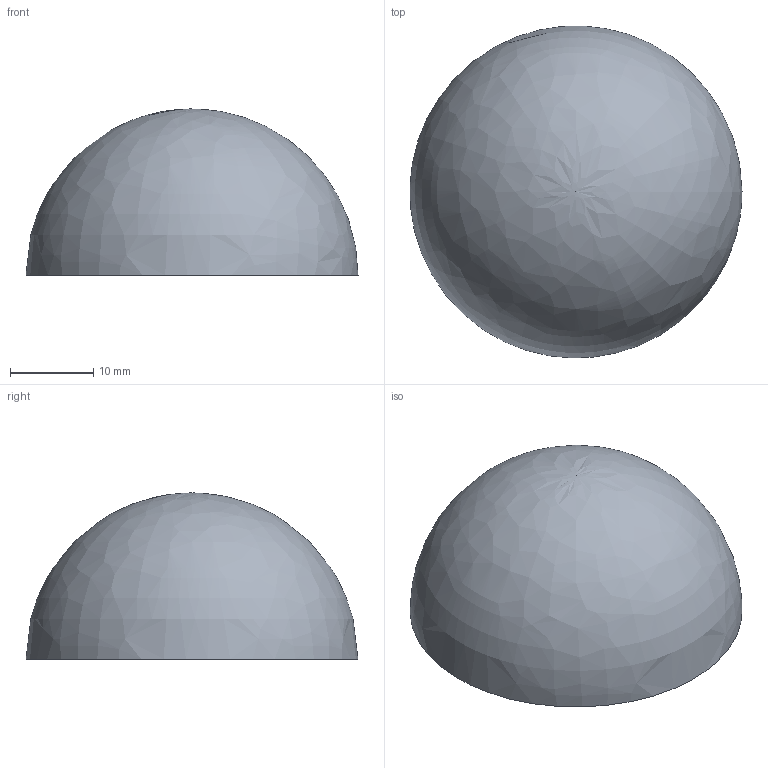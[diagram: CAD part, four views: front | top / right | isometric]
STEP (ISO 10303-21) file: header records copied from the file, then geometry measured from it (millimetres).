
FILE_DESCRIPTION(('step-conformance generated part'),'2;1');
FILE_NAME('dome_nurbs.step','2026-10-12T00:00:00',(''),(''),'step-conformance generate','step-conformance generate','');
FILE_SCHEMA(('AUTOMOTIVE_DESIGN { 1 0 10303 214 1 1 1 1 }'));
Length unit declared in the file: millimetre
Products named in the file (1): dome_nurbs
Bounding box: 39.99 x 39.97 x 20 mm (x, y, z)
Volume: 16832.7 mm3; surface area: 3774.1 mm2
Topology: 1 solids, 1 shells, 2 faces, 3 edges, 2 vertices
Faces by surface type: plane 1, bspline 1
Entity records: 69 total; most frequent: CARTESIAN_POINT 39, DIRECTION 4, AXIS2_PLACEMENT_3D 2, ORIENTED_EDGE 2, EDGE_LOOP 2, FACE_OUTER_BOUND 2, ADVANCED_FACE 2, UNCERTAINTY_MEASURE_WITH_UNIT 1
